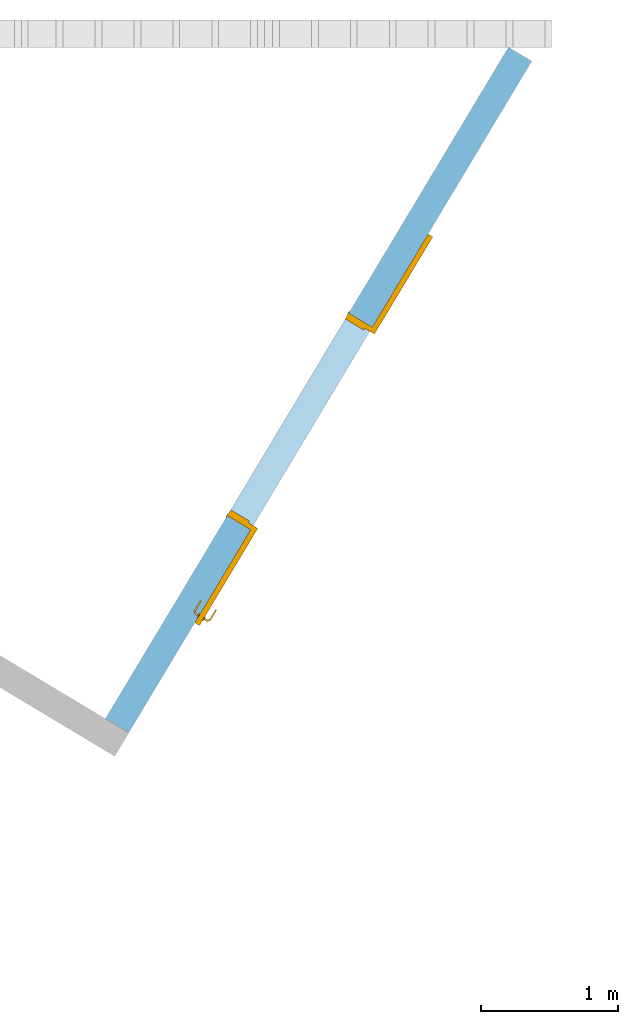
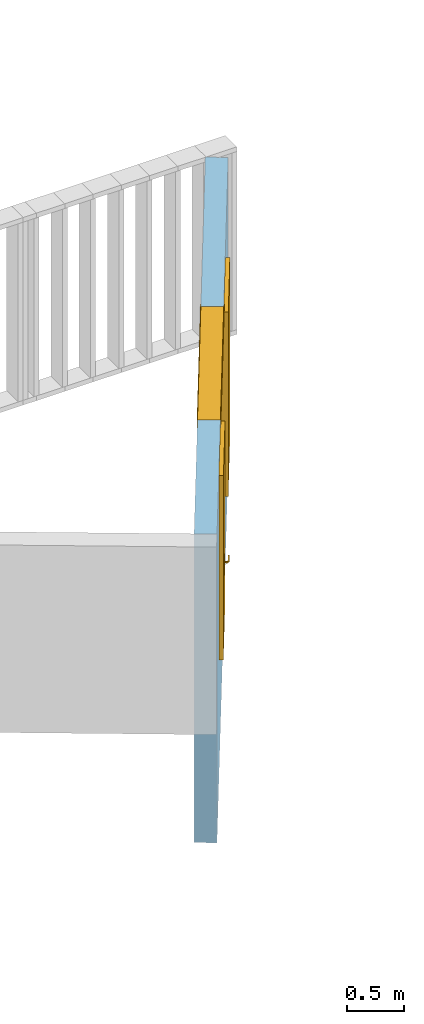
# One storey, part 203 of 240: 1 door, 1 opening, plus 1 element that does not belong to this part.
"""IFC2X3 building model written with IfcOpenShell, lengths in centimetres."""

import ifcopenshell
import ifcopenshell.guid

model = None  # the IFC model being written
_history = None  # IfcOwnerHistory: only IFC2X3 demands one
_inside = {}  # id of a spatial element -> (the spatial element, [elements in it])
_under = {}  # id of a project, library or spatial element -> (it, [spatial elements below it])
_declared = {}  # id of a project -> (the project, [libraries it declares])
_typed = {}  # id of a type object -> (the type object, [elements of that type])
_made_of = {}  # id of a material, layer set ... -> (it, [elements and type objects made of it])


def new_model(schema):
    """Start an empty IFC model of exactly this schema.

    Asked for "IFC4X3", IfcOpenShell would pick the latest addendum, in which some entities
    have other attributes; the version numbers below select the first issue.
    IFC2X3 requires an IfcOwnerHistory on every rooted entity: one is made here for all.
    """
    global model, _history
    if schema == "IFC4X3":
        model = ifcopenshell.file(schema_version=(4, 3, 0, 0))
    else:
        model = ifcopenshell.file(schema=schema)
    _inside.clear()
    _under.clear()
    _declared.clear()
    _typed.clear()
    _made_of.clear()
    _history = None
    if model.schema == "IFC2X3":
        org = make("IfcOrganization", Name="unknown")
        user = make(
            "IfcPersonAndOrganization",
            ThePerson=make("IfcPerson", FamilyName="unknown"),
            TheOrganization=org,
        )
        app = make(
            "IfcApplication",
            ApplicationDeveloper=org,
            Version="unknown",
            ApplicationFullName="unknown",
            ApplicationIdentifier="unknown",
        )
        _history = make(
            "IfcOwnerHistory",
            OwningUser=user,
            OwningApplication=app,
            ChangeAction="ADDED",
            CreationDate=0,
        )
    return model


def make(cls, **values):
    """One entity of the class cls with the attributes given. An attribute that is None is left unset."""
    return model.create_entity(
        cls, **{name: value for name, value in values.items() if value is not None}
    )


def entity(cls, *values):
    """Any entity or typed value of the class cls, its attributes in the order of the schema. None: left unset."""
    e = model.create_entity(cls)
    for i, value in enumerate(values):
        if value is not None:
            e[i] = value
    return e


def rooted(cls, **values):
    """An entity with a GlobalId (a new one), such as an element, a storey or a relation."""
    return make(cls, GlobalId=ifcopenshell.guid.new(), OwnerHistory=_history, **values)


def si_unit(unit_type, name, prefix=None):
    """IfcSIUnit, for example si_unit("LENGTHUNIT", "METRE", prefix="MILLI")."""
    return make("IfcSIUnit", UnitType=unit_type, Prefix=prefix, Name=name)


def converted_unit(unit_type, name, factor, base, dimensions=None, offset=None):
    """IfcConversionBasedUnit, such as the inch: factor (a typed value) times the base unit."""
    return make(
        "IfcConversionBasedUnit"
        if offset is None
        else "IfcConversionBasedUnitWithOffset",
        ConversionOffset=offset,
        Dimensions=None
        if dimensions is None
        else entity("IfcDimensionalExponents", *dimensions),
        UnitType=unit_type,
        Name=name,
        ConversionFactor=make(
            "IfcMeasureWithUnit", ValueComponent=factor, UnitComponent=base
        ),
    )


def derived_unit(unit_type, elements):
    """IfcDerivedUnit: a product of units, each with its exponent."""
    return make(
        "IfcDerivedUnit",
        Elements=[
            make("IfcDerivedUnitElement", Unit=unit, Exponent=power)
            for unit, power in elements
        ],
        UnitType=unit_type,
    )


def assignment(units):
    """IfcUnitAssignment: the units of a project."""
    return None if units is None else make("IfcUnitAssignment", Units=units)


def point(xyz):
    """IfcCartesianPoint."""
    return None if xyz is None else make("IfcCartesianPoint", Coordinates=xyz)


def direction(xyz):
    """IfcDirection."""
    return None if xyz is None else make("IfcDirection", DirectionRatios=xyz)


def frame(location, z_axis=None, x_axis=None):
    """IfcAxis2Placement3D, a coordinate frame: its origin and axes. An axis left out is left unset."""
    return make(
        "IfcAxis2Placement3D",
        Location=point(location),
        Axis=direction(z_axis),
        RefDirection=direction(x_axis),
    )


def frame_2d(location, x_axis=None):
    """IfcAxis2Placement2D, a coordinate frame in the plane: its origin and x axis."""
    return make(
        "IfcAxis2Placement2D", Location=point(location), RefDirection=direction(x_axis)
    )


def origin():
    """The frame at (0, 0, 0) with its axes left unset."""
    return frame((0.0, 0.0, 0.0))


def place(relative_to, where):
    """IfcLocalPlacement: puts the frame where relative to a parent placement (None: the world)."""
    return make(
        "IfcLocalPlacement", PlacementRelTo=relative_to, RelativePlacement=where
    )


def context(
    kind, dimensions, precision=None, world=None, true_north=None, identifier=None
):
    """IfcGeometricRepresentationContext, for example the 3D "Model" context."""
    return make(
        "IfcGeometricRepresentationContext",
        ContextIdentifier=identifier,
        ContextType=kind,
        CoordinateSpaceDimension=dimensions,
        Precision=precision,
        WorldCoordinateSystem=world,
        TrueNorth=true_north,
    )


def subcontext(parent, identifier, kind, view, scale=None):
    """IfcGeometricRepresentationSubContext, for example "Body" below "Model"."""
    return make(
        "IfcGeometricRepresentationSubContext",
        ContextIdentifier=identifier,
        ContextType=kind,
        ParentContext=parent,
        TargetScale=scale,
        TargetView=view,
    )


def project(units=None, contexts=None):
    """IfcProject with its units and contexts."""
    return rooted(
        "IfcProject",
        Name="project",
        RepresentationContexts=contexts,
        UnitsInContext=assignment(units),
    )


def spatial(cls, under=None, at=None, **own):
    """A site, building, storey or space (cls), placed at a placement, below another one or the project."""
    s = rooted(cls, ObjectPlacement=at, **own)
    if under is not None:
        _under.setdefault(under.id(), (under, []))[1].append(s)
    return s


def profile(cls, at=None, kind="AREA", **sizes):
    """A parametric profile (cls). Its sizes go by their IFC names, for example OverallWidth=200.0."""
    return make(cls, ProfileType=kind, Position=at, **sizes)


def rectangle(**sizes):
    """IfcRectangleProfileDef."""
    return profile("IfcRectangleProfileDef", **sizes)


def extrude(swept, where, along, depth):
    """IfcExtrudedAreaSolid: the profile swept, set in the frame where, extruded along a direction by depth."""
    return make(
        "IfcExtrudedAreaSolid",
        SweptArea=swept,
        Position=where,
        ExtrudedDirection=direction(along),
        Depth=depth,
    )


def faces_of(points, faces, orient=None, outer=None):
    """IfcFace entities. A face is a list of loops; a loop is a list of indices into points, from 0.

    orient and outer hold one flag for each loop. By default every Orientation is true, the
    first loop of a face is its IfcFaceOuterBound and the others are IfcFaceBound.
    """
    made = []
    for i, loops in enumerate(faces):
        bounds = []
        for j, loop in enumerate(loops):
            is_outer = j == 0 if outer is None else outer[i][j]
            bounds.append(
                make(
                    "IfcFaceOuterBound" if is_outer else "IfcFaceBound",
                    Bound=make("IfcPolyLoop", Polygon=[points[k] for k in loop]),
                    Orientation=True if orient is None else orient[i][j],
                )
            )
        made.append(make("IfcFace", Bounds=bounds))
    return made


def faceted_brep(points, faces, orient=None, outer=None, voids=None):
    """IfcFacetedBrep: a solid bounded by flat faces; with voids (closed shells), ...WithVoids."""
    shared = [point(p) for p in points]
    hull = make("IfcClosedShell", CfsFaces=faces_of(shared, faces, orient, outer))
    if voids is None:
        return make("IfcFacetedBrep", Outer=hull)
    return make(
        "IfcFacetedBrepWithVoids",
        Outer=hull,
        Voids=[
            make(cls, CfsFaces=faces_of(shared, fs, o, b)) for cls, fs, o, b in voids
        ],
    )


def shape(context_of_items, identifier, shape_type, items):
    """IfcShapeRepresentation: the items that make up one representation, for example the "Body"."""
    return make(
        "IfcShapeRepresentation",
        ContextOfItems=context_of_items,
        RepresentationIdentifier=identifier,
        RepresentationType=shape_type,
        Items=items,
    )


def source(mapping_origin, context_of_items, identifier, shape_type, items):
    """IfcRepresentationMap: a shape defined once, which mapped items show again and again."""
    return make(
        "IfcRepresentationMap",
        MappingOrigin=mapping_origin,
        MappedRepresentation=shape(context_of_items, identifier, shape_type, items),
    )


def transform(
    local_origin,
    x_axis=None,
    y_axis=None,
    z_axis=None,
    scale=None,
    scale2=None,
    scale3=None,
    uniform=True,
):
    """IfcCartesianTransformationOperator3D, or its non-uniform kind. x_axis, y_axis, z_axis: its Axis1, 2, 3."""
    if uniform:
        return make(
            "IfcCartesianTransformationOperator3D",
            Axis1=direction(x_axis),
            Axis2=direction(y_axis),
            LocalOrigin=point(local_origin),
            Scale=scale,
            Axis3=direction(z_axis),
        )
    return make(
        "IfcCartesianTransformationOperator3DnonUniform",
        Axis1=direction(x_axis),
        Axis2=direction(y_axis),
        LocalOrigin=point(local_origin),
        Scale=scale,
        Axis3=direction(z_axis),
        Scale2=scale2,
        Scale3=scale3,
    )


def mapped(mapping_source, mapping_target):
    """IfcMappedItem: shows the shape of a source again, moved by a transform."""
    return make(
        "IfcMappedItem", MappingSource=mapping_source, MappingTarget=mapping_target
    )


def material(Name=None, Category=None):
    """IfcMaterial."""
    return make("IfcMaterial", Name=Name, Category=Category)


def material_list(materials):
    """IfcMaterialList."""
    return make("IfcMaterialList", Materials=materials)


def layer(
    of_material, thickness, ventilated=None, Name=None, Category=None, Priority=None
):
    """IfcMaterialLayer: one layer of a wall or slab, of a material (None: an air gap)."""
    return make(
        "IfcMaterialLayer",
        Material=of_material,
        LayerThickness=thickness,
        IsVentilated=ventilated,
        Name=Name,
        Category=Category,
        Priority=Priority,
    )


def layer_set(layers, Name=None):
    """IfcMaterialLayerSet."""
    return make("IfcMaterialLayerSet", MaterialLayers=layers, LayerSetName=Name)


def layer_usage(for_layer_set, set_direction, sense, offset, extent=None):
    """IfcMaterialLayerSetUsage: how a layer set lies in its element."""
    return make(
        "IfcMaterialLayerSetUsage",
        ForLayerSet=for_layer_set,
        LayerSetDirection=set_direction,
        DirectionSense=sense,
        OffsetFromReferenceLine=offset,
        ReferenceExtent=extent,
    )


def made_of(thing, what):
    """Note that an element or type object is made of a material, layer set ...; save() writes the relation."""
    if what is not None:
        _made_of.setdefault(what.id(), (what, []))[1].append(thing)
    return thing


def type_object(cls, material=None, **own):
    """A type object (cls), such as IfcWallType, which elements share."""
    return made_of(rooted(cls, **own), material)


def type_shapes(of_type, sources):
    """Give a type object the sources (RepresentationMaps) that its elements show as mapped items."""
    of_type.RepresentationMaps = sources


def element(
    cls,
    number,
    at=None,
    inside=None,
    cuts=None,
    type_object=None,
    material=None,
    context=None,
    identifier="Body",
    shape_type=None,
    held_by="IfcProductDefinitionShape",
    body=None,
    shapes=None,
    **own,
):
    """One element of the class cls, such as IfcWall. Its Tag is "e" and its number.

    at: its placement. inside: the storey or other place that contains it. cuts: it is an
    opening in that element (IfcRelVoidsElement). A single representation is given by context,
    identifier, shape_type and body (its items); several are given by shapes. held_by: the class
    of the entity that holds the representations. save() writes the other relations.
    """
    e = rooted(cls, Tag="e%d" % number, ObjectPlacement=at, **own)
    if body is not None:
        shapes = [shape(context, identifier, shape_type, body)]
    if shapes is not None:
        e.Representation = make(held_by, Representations=shapes)
    if inside is not None:
        _inside.setdefault(inside.id(), (inside, []))[1].append(e)
    if cuts is not None:
        rooted(
            "IfcRelVoidsElement", RelatingBuildingElement=cuts, RelatedOpeningElement=e
        )
    if type_object is not None:
        _typed.setdefault(type_object.id(), (type_object, []))[1].append(e)
    return made_of(e, material)


def fill(opening, filler):
    """IfcRelFillsElement: the door or window that sits in an opening."""
    return rooted(
        "IfcRelFillsElement",
        RelatingOpeningElement=opening,
        RelatedBuildingElement=filler,
    )


def aggregate(whole, parts):
    """IfcRelAggregates: a whole, such as a stair, and the parts it consists of."""
    return rooted("IfcRelAggregates", RelatingObject=whole, RelatedObjects=parts)


def save(model, path):
    """Write the relations noted so far, then the file.

    IfcRelAggregates (storeys below a building ...), IfcRelContainedInSpatialStructure (elements
    in a storey), IfcRelDefinesByType, IfcRelAssociatesMaterial and IfcRelDeclares: one each for
    every whole, place, type object, material and project.
    """
    for whole, parts in _under.values():
        aggregate(whole, parts)
    for where, things in _inside.values():
        rooted(
            "IfcRelContainedInSpatialStructure",
            RelatedElements=things,
            RelatingStructure=where,
        )
    for kind, things in _typed.values():
        rooted("IfcRelDefinesByType", RelatedObjects=things, RelatingType=kind)
    for what, things in _made_of.values():
        rooted("IfcRelAssociatesMaterial", RelatedObjects=things, RelatingMaterial=what)
    for by, libraries in _declared.values():
        rooted("IfcRelDeclares", RelatingContext=by, RelatedDefinitions=libraries)
    model.write(path)


model = new_model("IFC2X3")

# Units and contexts
model_context = context("Model", 3, precision=0.001, world=origin(), true_north=direction((6.12303176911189e-17, 1.0)))
body_context = subcontext(model_context, "Body", "Model", "MODEL_VIEW")
ifc_project = project(units=[si_unit("LENGTHUNIT", "METRE", prefix="CENTI"), si_unit("AREAUNIT", "SQUARE_METRE"), si_unit("VOLUMEUNIT", "CUBIC_METRE"), converted_unit("PLANEANGLEUNIT", "DEGREE", entity("IfcRatioMeasure", 0.0174532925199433), si_unit("PLANEANGLEUNIT", "RADIAN"), dimensions=[0, 0, 0, 0, 0, 0, 0]), si_unit("MASSUNIT", "GRAM", prefix="KILO"), derived_unit("MASSDENSITYUNIT", [(si_unit("MASSUNIT", "GRAM", prefix="KILO"), 1), (si_unit("LENGTHUNIT", "METRE"), -3)]), si_unit("TIMEUNIT", "SECOND"), si_unit("FREQUENCYUNIT", "HERTZ"), si_unit("THERMODYNAMICTEMPERATUREUNIT", "DEGREE_CELSIUS"), derived_unit("THERMALTRANSMITTANCEUNIT", [(si_unit("MASSUNIT", "GRAM", prefix="KILO"), 1), (si_unit("THERMODYNAMICTEMPERATUREUNIT", "KELVIN"), -1), (si_unit("TIMEUNIT", "SECOND"), -3)]), derived_unit("VOLUMETRICFLOWRATEUNIT", [(si_unit("LENGTHUNIT", "METRE"), 3), (si_unit("TIMEUNIT", "SECOND"), -1)]), si_unit("ELECTRICCURRENTUNIT", "AMPERE"), si_unit("ELECTRICVOLTAGEUNIT", "VOLT"), si_unit("POWERUNIT", "WATT"), si_unit("FORCEUNIT", "NEWTON", prefix="KILO"), si_unit("ILLUMINANCEUNIT", "LUX"), si_unit("LUMINOUSFLUXUNIT", "LUMEN"), si_unit("LUMINOUSINTENSITYUNIT", "CANDELA"), derived_unit("USERDEFINED", [(si_unit("MASSUNIT", "GRAM", prefix="KILO"), -1), (si_unit("LENGTHUNIT", "METRE"), -2), (si_unit("TIMEUNIT", "SECOND"), 3), (si_unit("LUMINOUSFLUXUNIT", "LUMEN"), 1)]), derived_unit("LINEARVELOCITYUNIT", [(si_unit("LENGTHUNIT", "METRE"), 1), (si_unit("TIMEUNIT", "SECOND"), -1)]), si_unit("PRESSUREUNIT", "PASCAL"), derived_unit("USERDEFINED", [(si_unit("LENGTHUNIT", "METRE"), -2), (si_unit("MASSUNIT", "GRAM", prefix="KILO"), 1), (si_unit("TIMEUNIT", "SECOND"), -2)])], contexts=[model_context])

# Site, building, storey
site_placement = place(None, frame((-2781.94577612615, 7442.24238424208, 0.0)))
site = spatial("IfcSite", under=ifc_project, at=site_placement, Name="Default", CompositionType="ELEMENT")
building_placement = place(site_placement, origin())
building = spatial("IfcBuilding", under=site, at=building_placement, CompositionType="ELEMENT")
storey_placement = place(building_placement, origin())
storey = spatial("IfcBuildingStorey", under=building, at=storey_placement, Name="N00 - COO", CompositionType="ELEMENT", Elevation=0.0)

# Wall, opening, door
ifc_material_1 = material(Name="01 - Maçonnerie")
ifc_layer = layer(ifc_material_1, 20.0)
ifc_layer_set = layer_set([ifc_layer], Name="Mur de base:04 - Structure - béton - 20cm")
ifc_layer_usage = layer_usage(ifc_layer_set, "AXIS2", "NEGATIVE", 10.0)
wall_type = type_object("IfcWallType", Name="Mur de base:04 - Structure - béton - 20cm", PredefinedType="STANDARD", material=ifc_layer_set)
wall_placement = place(building_placement, frame((-12298.9670926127, -466.942012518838, -129.389135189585), z_axis=(0.0, 0.0, 1.0), x_axis=(0.514662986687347, 0.85739256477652, 0.0)))
wall = element("IfcWallStandardCase", 1, at=wall_placement, inside=storey, type_object=wall_type, material=ifc_layer_usage, Name="Mur de base:04 - Structure - béton - 20cm", ObjectType="Mur de base:04 - Structure - béton - 20cm", context=body_context, shape_type="SweptSolid", body=[
    extrude(rectangle(XDim=573.765195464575, YDim=19.9999999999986, at=frame_2d((286.882597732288, -1.24344978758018e-13), x_axis=(-1.0, 0.0))), origin(), (0.0, 0.0, 1.0), 329.389135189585),
])
opening_placement = place(wall_placement, frame((346.5, 10.0, 129.389135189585)))
opening = element("IfcOpeningElement", 2, at=opening_placement, cuts=wall, Name="Int. Double:PP airel poubelle(1.66m x 2.04m):1", ObjectType="Opening", context=body_context, shape_type="SweptSolid", body=[
    extrude(rectangle(XDim=200.000000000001, YDim=173.0, at=frame_2d((100.000000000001, 86.5000000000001), x_axis=(1.0, 0.0))), frame((0.0, 0.0, 0.0), z_axis=(0.0, -1.0, 0.0), x_axis=(0.0, 0.0, 1.0)), (0.0, 0.0, 1.0), 20.0),
])
ifc_material_2 = material(Name="Bois - Panneau de porte")
ifc_material_3 = material(Name="Finition Peinture - Blanc satiné")
ifc_material_4 = material(Name="Bois - Cadre de porte")
ifc_material_list_1 = material_list([ifc_material_2, ifc_material_3, ifc_material_4])
ifc_material_list_2 = material_list([ifc_material_2, ifc_material_3, ifc_material_4])
door_style = type_object("IfcDoorStyle", Name="PP airel poubelle(1.66m x 2.04m)", ConstructionType="NOTDEFINED", OperationType="DOUBLE_DOOR_SINGLE_SWING", ParameterTakesPrecedence=False, Sizeable=False, material=ifc_material_list_2)
shared_shape = source(origin(), body_context, "Body", "Brep", [
    faceted_brep([(259.500000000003, -4.0, 196.5), (176.500000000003, -4.0, 196.5), (176.500000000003, -4.0, 0.0), (259.500000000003, -4.0, 0.0), (259.500000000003, 0.0, 196.5), (259.500000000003, 0.0, 0.0), (176.500000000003, 0.0, 0.0), (176.500000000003, 0.0, 196.5)], [[[0, 1, 2, 3]], [[4, 5, 6, 7]], [[1, 0, 4, 7]], [[2, 1, 7, 6]], [[3, 2, 6, 5]], [[0, 3, 5, 4]]]),
    faceted_brep([(-68.4999999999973, 0.499999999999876, 87.0), (-68.4999999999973, 0.499999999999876, 108.0), (-67.5352761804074, 0.499999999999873, 108.399601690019), (-66.4999999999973, 0.499999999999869, 108.535898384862), (-65.4647238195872, 0.499999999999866, 108.399601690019), (-64.4999999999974, 0.499999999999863, 108.0), (-64.4999999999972, 0.499999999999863, 87.0), (-65.4647238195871, 0.499999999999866, 86.6003983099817), (-66.4999999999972, 0.499999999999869, 86.464101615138), (-67.5352761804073, 0.499999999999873, 86.6003983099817), (-68.4999999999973, 0.0, 108.0), (-68.4999999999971, 0.0, 87.0), (-67.5352761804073, 0.0, 86.6003983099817), (-66.4999999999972, 0.0, 86.464101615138), (-65.4647238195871, 0.0, 86.6003983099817), (-64.4999999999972, 0.0, 87.0), (-64.4999999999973, 0.0, 108.0), (-65.4647238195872, 0.0, 108.399601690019), (-66.4999999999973, 0.0, 108.535898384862), (-67.5352761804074, 0.0, 108.399601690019)], [[[0, 1, 2, 3, 4, 5, 6, 7, 8, 9]], [[10, 11, 12, 13, 14, 15, 16, 17, 18, 19]], [[9, 12, 11, 0]], [[8, 13, 12, 9]], [[7, 14, 13, 8]], [[7, 6, 15, 14]], [[15, 6, 5, 16]], [[4, 17, 16, 5]], [[3, 18, 17, 4]], [[2, 19, 18, 3]], [[2, 1, 10, 19]], [[11, 10, 1, 0]]]),
    faceted_brep([(-68.4999999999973, -4.0, 87.0), (-68.4999999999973, -4.0, 108.0), (-67.5352761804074, -4.0, 108.399601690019), (-66.4999999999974, -4.0, 108.535898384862), (-65.4647238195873, -4.0, 108.399601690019), (-64.4999999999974, -4.0, 108.0), (-64.4999999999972, -4.0, 87.0), (-65.4647238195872, -4.0, 86.6003983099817), (-66.4999999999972, -4.0, 86.464101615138), (-67.5352761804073, -4.0, 86.6003983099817), (-66.4999999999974, -4.50000000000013, 108.535898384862), (-67.5352761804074, -4.50000000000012, 108.399601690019), (-68.4999999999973, -4.50000000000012, 108.0), (-68.4999999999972, -4.50000000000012, 87.0), (-67.5352761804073, -4.50000000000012, 86.6003983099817), (-66.4999999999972, -4.50000000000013, 86.464101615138), (-65.4647238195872, -4.50000000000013, 86.6003983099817), (-64.4999999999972, -4.50000000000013, 87.0), (-64.4999999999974, -4.50000000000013, 108.0), (-65.4647238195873, -4.50000000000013, 108.399601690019)], [[[0, 1, 2, 3, 4, 5, 6, 7, 8, 9]], [[10, 11, 12, 13, 14, 15, 16, 17, 18, 19]], [[4, 19, 18, 5]], [[3, 10, 19, 4]], [[2, 11, 10, 3]], [[2, 1, 12, 11]], [[13, 12, 1, 0]], [[9, 14, 13, 0]], [[8, 15, 14, 9]], [[7, 16, 15, 8]], [[7, 6, 17, 16]], [[17, 6, 5, 18]]]),
    faceted_brep([(-66.2974701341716, 0.499999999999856, 100.778044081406), (-66.7025298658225, 0.499999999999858, 100.778044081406), (-67.0999999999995, 0.499999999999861, 100.699999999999), (-67.1000000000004, 0.499999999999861, 99.2999999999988), (-66.7025298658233, 0.499999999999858, 99.221955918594), (-66.2974701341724, 0.499999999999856, 99.2219559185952), (-65.8999999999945, 0.499999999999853, 99.3000000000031), (-65.8999999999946, 0.499999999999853, 100.7), (-66.7025298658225, 3.10045754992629, 100.778044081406), (-67.0999999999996, 3.26509507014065, 100.7), (-66.2974701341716, 2.93267631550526, 100.778044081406), (-64.9298602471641, 4.30028620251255, 100.778044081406), (-65.0976414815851, 4.70534593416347, 100.778044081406), (-65.8999999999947, 2.76803879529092, 100.7), (-65.8999999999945, 2.76803879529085, 99.3000000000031), (-66.2974701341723, 2.93267631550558, 99.2219559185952), (-66.7025298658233, 3.10045754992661, 99.221955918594), (-65.0976414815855, 4.70534593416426, 99.221955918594), (-64.9298602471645, 4.30028620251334, 99.2219559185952), (-67.1000000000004, 3.26509507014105, 99.2999999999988), (-65.2622790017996, 5.10281606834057, 100.7), (-64.7652227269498, 3.90281606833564, 100.7), (-64.7652227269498, 3.90281606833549, 99.3000000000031), (-65.2622790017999, 5.1028160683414, 99.2999999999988), (-56.4981359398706, 5.10281606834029, 100.7), (-56.4981359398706, 4.70534593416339, 100.778044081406), (-56.4981359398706, 4.30028620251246, 100.778044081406), (-56.4981359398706, 3.90281606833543, 100.699999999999), (-56.4981359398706, 3.90281606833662, 99.3000000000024), (-56.4981359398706, 4.30028620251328, 99.2219559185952), (-56.4981359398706, 4.7053459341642, 99.221955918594), (-56.4981359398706, 5.10281606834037, 99.2999999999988), (-60.7139980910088, 4.50281606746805, 100.78786867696), (-61.2692302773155, 5.10281606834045, 100.7), (-60.6316793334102, 3.90281606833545, 100.7), (-60.6316793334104, 3.90281606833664, 99.3000000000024), (-60.7139981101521, 4.50281607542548, 99.2121313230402), (-61.2692310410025, 5.10281606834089, 99.2999999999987)], [[[0, 1, 2, 3, 4, 5, 6, 7]], [[2, 1, 8, 9]], [[1, 0, 10, 11, 12, 8]], [[0, 7, 13, 10]], [[14, 13, 7, 6]], [[5, 15, 14, 6]], [[5, 4, 16, 17, 18, 15]], [[3, 19, 16, 4]], [[9, 19, 3, 2]], [[9, 8, 12, 20]], [[10, 13, 21, 11]], [[22, 21, 13, 14]], [[14, 15, 18, 22]], [[16, 19, 23, 17]], [[20, 23, 19, 9]], [[24, 25, 26, 27, 28, 29, 30, 31]], [[32, 25, 33]], [[33, 25, 24]], [[33, 20, 12]], [[11, 34, 32]], [[34, 11, 21]], [[27, 26, 34]], [[32, 26, 25]], [[32, 34, 26]], [[32, 33, 12]], [[11, 32, 12]], [[21, 22, 35, 28, 27, 34]], [[36, 29, 35]], [[30, 36, 37]], [[18, 35, 22]], [[29, 28, 35]], [[30, 37, 31]], [[37, 17, 23]], [[36, 17, 37]], [[36, 18, 17]], [[36, 35, 18]], [[29, 36, 30]], [[23, 20, 33, 24, 31, 37]]]),
    faceted_brep([(-66.2974701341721, -4.50000000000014, 99.2219559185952), (-66.7025298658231, -4.50000000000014, 99.221955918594), (-67.0999999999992, -4.50000000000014, 99.2999999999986), (-67.0999999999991, -4.50000000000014, 100.7), (-66.7025298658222, -4.50000000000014, 100.778044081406), (-66.2974701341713, -4.50000000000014, 100.778044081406), (-65.8999999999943, -4.50000000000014, 100.7), (-65.8999999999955, -4.50000000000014, 99.3000000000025), (-65.8999999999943, -6.74852045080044, 100.7), (-65.8999999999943, -6.74852045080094, 99.3000000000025), (-66.2974701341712, -6.9131579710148, 100.778044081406), (-66.7025298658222, -7.08093920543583, 100.778044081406), (-65.0838906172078, -8.69957845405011, 100.778044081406), (-64.9161093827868, -8.29451872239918, 100.778044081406), (-67.0999999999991, -7.24557672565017, 100.7), (-67.0999999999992, -7.24557672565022, 99.2999999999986), (-66.7025298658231, -7.08093920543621, 99.221955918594), (-66.2974701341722, -6.91315797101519, 99.2219559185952), (-64.9161093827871, -8.2945187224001, 99.2219559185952), (-65.0838906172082, -8.69957845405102, 99.221955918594), (-64.7514718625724, -7.8970485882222, 100.7), (-64.7514718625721, -7.89704858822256, 99.3000000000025), (-65.2485281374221, -9.09704858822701, 100.7), (-65.2485281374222, -9.09704858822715, 99.2999999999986), (-56.4954216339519, -8.29451872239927, 100.778044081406), (-56.4954216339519, -8.6995784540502, 100.778044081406), (-56.4954216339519, -9.0970485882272, 100.7), (-56.4954216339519, -9.0970485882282, 99.2999999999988), (-56.4954216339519, -8.69957845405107, 99.221955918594), (-56.4954216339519, -8.29451872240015, 99.2219559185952), (-56.4954216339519, -7.89704858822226, 99.3000000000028), (-56.4954216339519, -7.89704858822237, 100.7), (-60.6234467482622, -7.89704858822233, 100.7), (-60.623447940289, -7.89704858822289, 99.3000000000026), (-60.7057655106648, -8.49704858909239, 100.78786867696), (-61.2554794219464, -9.0970485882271, 100.7), (-61.2554795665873, -9.09704858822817, 99.2999999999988), (-60.7057654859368, -8.49704858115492, 99.2121313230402)], [[[0, 1, 2, 3, 4, 5, 6, 7]], [[8, 9, 7, 6]], [[5, 10, 8, 6]], [[5, 4, 11, 12, 13, 10]], [[3, 14, 11, 4]], [[14, 3, 2, 15]], [[2, 1, 16, 15]], [[1, 0, 17, 18, 19, 16]], [[0, 7, 9, 17]], [[20, 21, 9, 8]], [[8, 10, 13, 20]], [[14, 22, 12, 11]], [[23, 22, 14, 15]], [[15, 16, 19, 23]], [[17, 9, 21, 18]], [[24, 25, 26, 27, 28, 29, 30, 31]], [[21, 20, 32, 31, 30, 33]], [[34, 24, 32]], [[25, 34, 35]], [[13, 32, 20]], [[24, 31, 32]], [[25, 35, 26]], [[35, 12, 22]], [[34, 12, 35]], [[34, 13, 12]], [[34, 32, 13]], [[24, 34, 25]], [[22, 23, 36, 27, 26, 35]], [[37, 28, 36]], [[36, 28, 27]], [[36, 23, 19]], [[18, 33, 37]], [[33, 18, 21]], [[30, 29, 33]], [[37, 29, 28]], [[37, 33, 29]], [[37, 36, 19]], [[18, 37, 19]]]),
    faceted_brep([(-72.4999999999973, -4.0, 196.5), (-72.4999999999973, -4.0, 0.0), (10.5000000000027, -4.0, 0.0), (10.5000000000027, -4.0, 196.5), (-72.4999999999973, 0.0, 196.5), (10.5000000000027, 0.0, 196.5), (10.5000000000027, 0.0, 0.0), (-72.4999999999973, 0.0, 0.0)], [[[0, 1, 2, 3]], [[4, 5, 6, 7]], [[3, 5, 4, 0]], [[2, 6, 5, 3]], [[1, 7, 6, 2]], [[0, 4, 7, 1]]]),
    faceted_brep([(180.0, 0.0, 0.0), (176.500000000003, 0.0, 0.0), (176.500000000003, 4.0, 0.0), (175.0, 4.0, 0.0), (175.0, 20.0, 0.0), (180.0, 20.0, 0.0), (180.0, 20.0, 200.0), (180.0, 0.0, 200.0), (175.0, 20.0, 195.0), (12.0, 20.0, 195.0), (12.0, 20.0, 0.0), (7.0, 20.0, 0.0), (7.0, 20.0, 200.0), (175.0, 4.0, 195.0), (176.500000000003, 4.0, 196.5), (10.5000000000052, 4.0, 196.5), (10.5000000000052, 4.0, 0.0), (12.0, 4.0, 0.0), (12.0, 4.0, 195.0), (176.500000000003, 0.0, 196.5), (7.0, 0.0, 200.0), (7.0, 0.0, 0.0), (10.5000000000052, 0.0, 0.0), (10.5000000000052, 0.0, 196.5)], [[[0, 1, 2, 3, 4, 5]], [[5, 6, 7, 0]], [[4, 8, 9, 10, 11, 12, 6, 5]], [[3, 13, 8, 4]], [[2, 14, 15, 16, 17, 18, 13, 3]], [[1, 19, 14, 2]], [[0, 7, 20, 21, 22, 23, 19, 1]], [[12, 11, 21, 20]], [[21, 11, 10, 17, 16, 22]], [[18, 17, 10, 9]], [[23, 22, 16, 15]], [[6, 12, 20, 7]], [[13, 18, 9, 8]], [[19, 23, 15, 14]]]),
    faceted_brep([(178.500000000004, 20.0, 0.0), (178.500000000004, 20.5000000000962, 0.0), (181.500000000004, 20.5000000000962, 0.0), (181.500000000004, 20.0, 0.0), (181.500000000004, 20.0, 201.500000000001), (5.50000000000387, 20.0, 201.500000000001), (5.50000000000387, 20.0, 0.0), (8.50000000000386, 20.0, 0.0), (8.50000000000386, 20.0, 198.500000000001), (178.500000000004, 20.0, 198.500000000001), (181.500000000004, 20.5000000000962, 201.500000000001), (178.500000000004, 20.5000000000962, 198.500000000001), (8.50000000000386, 20.5000000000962, 198.500000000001), (8.50000000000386, 20.5000000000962, 0.0), (5.50000000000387, 20.5000000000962, 0.0), (5.50000000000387, 20.5000000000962, 201.500000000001)], [[[0, 1, 2, 3]], [[3, 4, 5, 6, 7, 8, 9, 0]], [[2, 10, 4, 3]], [[1, 11, 12, 13, 14, 15, 10, 2]], [[0, 9, 11, 1]], [[8, 7, 13, 12]], [[7, 6, 14, 13]], [[15, 14, 6, 5]], [[10, 15, 5, 4]], [[9, 8, 12, 11]]]),
    faceted_brep([(181.500000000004, -0.500000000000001, 0.0), (181.500000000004, -0.500000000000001, 201.500000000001), (5.50000000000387, -0.500000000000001, 201.500000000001), (5.50000000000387, -0.500000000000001, 0.0), (8.50000000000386, -0.500000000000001, 0.0), (8.50000000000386, -0.500000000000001, 198.500000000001), (178.500000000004, -0.500000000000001, 198.500000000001), (178.500000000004, -0.500000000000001, 0.0), (181.500000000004, 0.0, 0.0), (181.500000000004, 0.0, 201.500000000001), (178.500000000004, 0.0, 0.0), (178.500000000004, 0.0, 198.500000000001), (8.50000000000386, 0.0, 198.500000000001), (8.50000000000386, 0.0, 0.0), (5.50000000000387, 0.0, 0.0), (5.50000000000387, 0.0, 201.500000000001)], [[[0, 1, 2, 3, 4, 5, 6, 7]], [[8, 9, 1, 0]], [[10, 11, 12, 13, 14, 15, 9, 8]], [[7, 6, 11, 10]], [[5, 4, 13, 12]], [[15, 14, 3, 2]], [[9, 15, 2, 1]], [[6, 5, 12, 11]], [[4, 3, 14, 13]], [[7, 10, 8, 0]]]),
])
type_shapes(door_style, [shared_shape])
door_placement = place(opening_placement, frame((-180.0, -20.0, 0.0)))
door = element("IfcDoor", 3, at=door_placement, inside=storey, type_object=door_style, material=ifc_material_list_1, Name="Int. Double:PP airel poubelle(1.66m x 2.04m)", ObjectType="Int. Double:PP airel poubelle(1.66m x 2.04m)", OverallHeight=200.000000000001, OverallWidth=173.0, context=body_context, shape_type="MappedRepresentation", body=[
    mapped(shared_shape, transform((0.0, 0.0, 0.0), scale=1.0)),
])
fill(opening, door)

save(model, "model.ifc")
